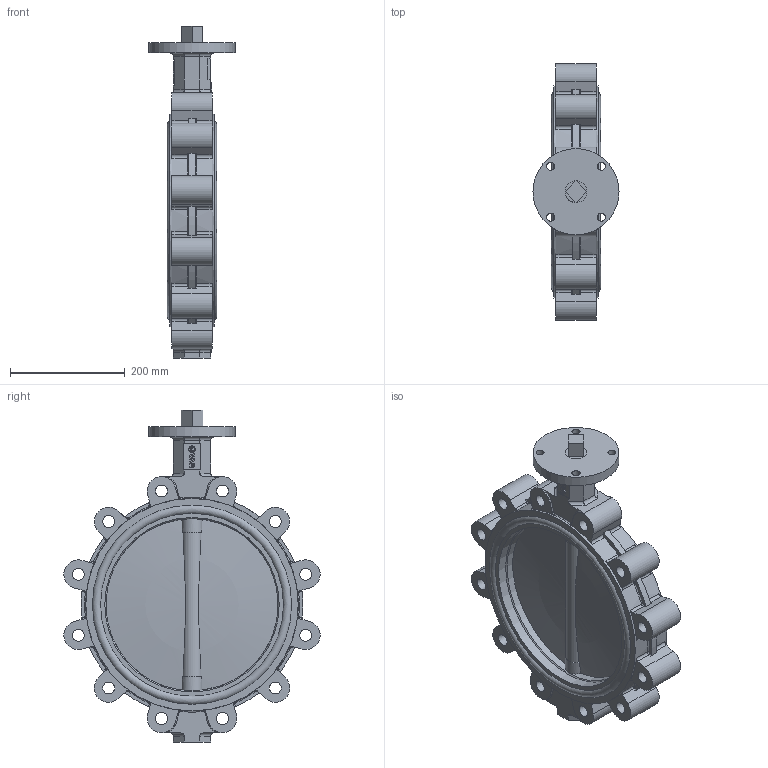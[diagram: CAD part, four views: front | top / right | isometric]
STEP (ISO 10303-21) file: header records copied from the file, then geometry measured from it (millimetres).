
FILE_DESCRIPTION(('STEP AP242'), '1');
FILE_NAME('Ïîâîðîòíûé çàòâîð ïîä ýëåêòðîïðèâîä', '', ('UNSPECIFIED'), ('UNSPECIFIED'), 'C3D Converter', 'C3D Toolkit', '');
FILE_SCHEMA(('AP242_MANAGED_MODEL_BASED_3D_ENGINEERING_MIM_LF { 1 0 10303 442 1 1 4 }'));
Length unit declared in the file: millimetre
Products named in the file (6): П
Assembly tree (6 placements, depth 2):
  (unnamed)
    (unnamed)
    П  x2
    (unnamed)
    (unnamed)
    (unnamed)
Bounding box: 150 x 445.84 x 578 mm (x, y, z)
Volume: 6725289 mm3; surface area: 979427.3 mm2
Topology: 6 solids, 6 shells, 697 faces, 1827 edges, 1174 vertices
Faces by surface type: plane 249, cylinder 188, extrusion 173, torus 79, cone 4, sphere 4
Full cylindrical faces by diameter (mm): 11.421 x1, 14 x4, 20.752 x12, 27 x5, 29.7 x1, 37.05 x4, 38.184 x5, 150 x1, 300 x1, 303.75 x2, 318.75 x2, 332.708 x4, 346.667 x4, 370 x2
Entity records: 27174 total; most frequent: CARTESIAN_POINT 8182, ORIENTED_EDGE 3530, DIRECTION 3030, EDGE_CURVE 1765, VERTEX_POINT 1169, AXIS2_PLACEMENT_3D 1011, VECTOR 1008, LINE 835
